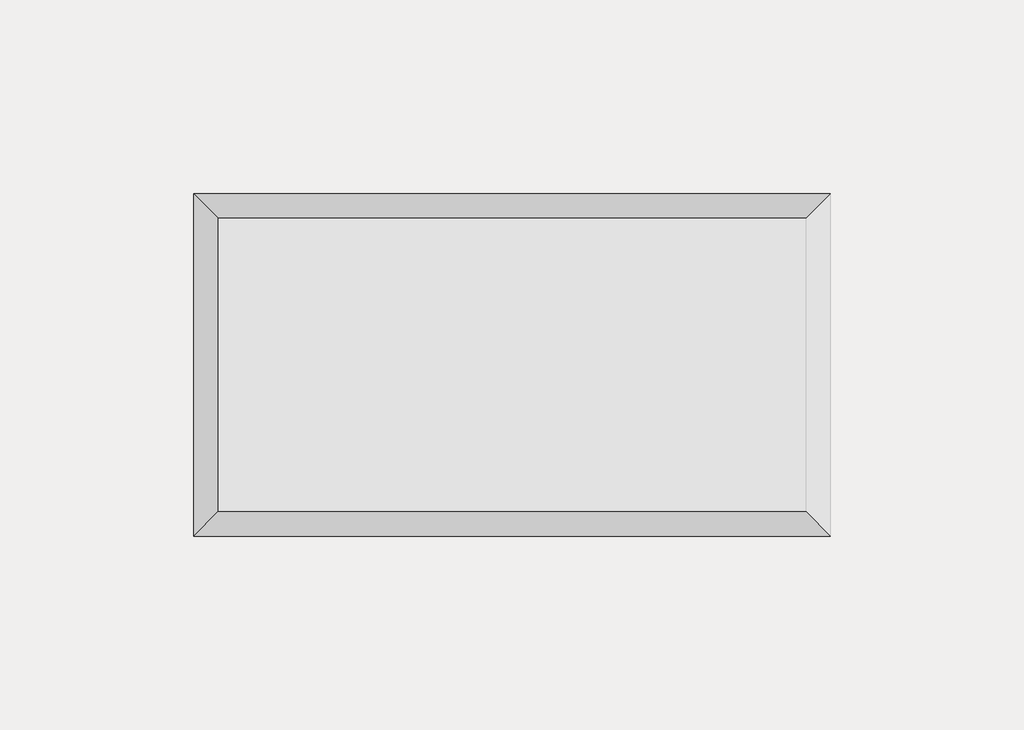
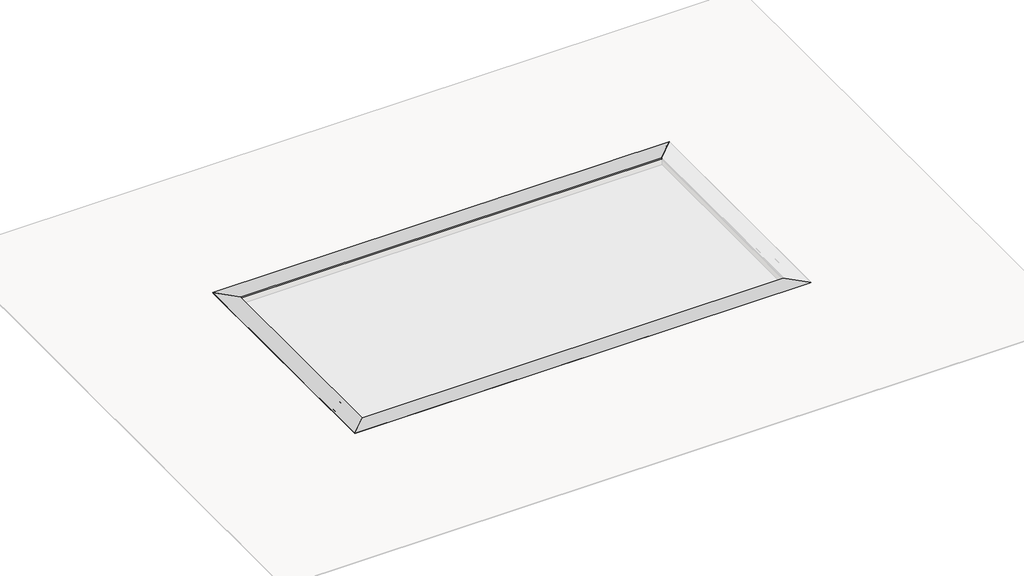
# One storey, part 2 of 5: 5 proxies.
"""IFC4 building model written with IfcOpenShell, lengths in millimetres."""

from ifc_helpers import new_model, si_unit, origin, place, context, project, spatial, faceted_brep, element, save

model = new_model("IFC4")

# Units and contexts
model_context = context("Model", 3, world=origin())
ifc_project = project(units=[si_unit("LENGTHUNIT", "METRE", prefix="MILLI")], contexts=[model_context])

# Site, building, storey
site = spatial("IfcSite", under=ifc_project)
building = spatial("IfcBuilding", under=site)
storey = spatial("IfcBuildingStorey", under=building, Name="EXAGRES_MILAN Series_Pool_Examples", Elevation=0.0)

# Proxies
placement = place(None, origin())
element("IfcBuildingElementProxy", 1, Name="Wall Sweeps", at=placement, inside=storey, context=model_context, shape_type="Brep", body=[
    faceted_brep([(-13483.3292468, -9626.7035945, 0.0), (-13470.3292468, -9639.7035945, 0.0), (-13470.3292468, -9639.7035945, 33.0), (-13800.3292468, -9309.7035945, 33.0), (-13800.3292468, -9309.7035945, 21.0), (-13794.3292468, -9315.7035945, 21.0), (-13794.3292468, -9315.7035945, 22.0), (-13790.3292468, -9319.7035945, 22.0), (-13790.3292468, -9319.7035945, 21.0), (-13784.3292468, -9325.7035945, 21.0), (-13784.3292468, -9325.7035945, 22.0), (-13780.3292468, -9329.7035945, 22.0), (-13780.3292468, -9329.7035945, 21.0), (-13774.3292468, -9335.7035945, 21.0), (-13774.3292468, -9335.7035945, 22.0), (-13770.3292468, -9339.7035945, 22.0), (-13770.3292468, -9339.7035945, 21.0), (-13764.3292468, -9345.7035945, 21.0), (-13764.3292468, -9345.7035945, 22.0), (-13760.3292468, -9349.7035945, 22.0), (-13760.3292468, -9349.7035945, 21.0), (-13754.3292468, -9355.7035945, 21.0), (-13754.3292468, -9355.7035945, 22.0), (-13750.3292468, -9359.7035945, 22.0), (-13750.3292468, -9359.7035945, 21.0), (-13744.3292468, -9365.7035945, 21.0), (-13744.3292468, -9365.7035945, 22.0), (-13740.3292468, -9369.7035945, 22.0), (-13740.3292468, -9369.7035945, 21.0), (-13734.3292468, -9375.7035945, 21.0), (-13734.3292468, -9375.7035945, 22.0), (-13730.3292468, -9379.7035945, 22.0), (-13730.3292468, -9379.7035945, 21.0), (-13724.3292468, -9385.7035945, 21.0), (-13724.3292468, -9385.7035945, 22.0), (-13720.3292468, -9389.7035945, 22.0), (-13720.3292468, -9389.7035945, 21.0), (-13714.3292468, -9395.7035945, 21.0), (-13714.3292468, -9395.7035945, 22.0), (-13710.3292468, -9399.7035945, 22.0), (-13710.3292468, -9399.7035945, 21.0), (-13704.3292468, -9405.7035945, 21.0), (-13704.3292468, -9405.7035945, 22.0), (-13700.3292468, -9409.7035945, 22.0), (-13700.3292468, -9409.7035945, 21.0), (-13694.3292468, -9415.7035945, 21.0), (-13694.3292468, -9415.7035945, 22.0), (-13690.3292468, -9419.7035945, 22.0), (-13690.3292468, -9419.7035945, 21.0), (-13684.3292468, -9425.7035945, 21.0), (-13684.3292468, -9425.7035945, 22.0), (-13680.3292468, -9429.7035945, 22.0), (-13680.3292468, -9429.7035945, 21.0), (-13674.3292468, -9435.7035945, 21.0), (-13674.3292468, -9435.7035945, 22.0), (-13670.3292468, -9439.7035945, 22.0), (-13670.3292468, -9439.7035945, 21.0), (-13664.3292468, -9445.7035945, 21.0), (-13664.3292468, -9445.7035945, 22.0), (-13660.3292468, -9449.7035945, 22.0), (-13660.3292468, -9449.7035945, 21.0), (-13654.3292468, -9455.7035945, 21.0), (-13654.3292468, -9455.7035945, 22.0), (-13650.3292468, -9459.7035945, 22.0), (-13650.3292468, -9459.7035945, 21.0), (-13644.3292468, -9465.7035945, 21.0), (-13644.3292468, -9465.7035945, 22.0), (-13640.3292468, -9469.7035945, 22.0), (-13640.3292468, -9469.7035945, 21.0), (-13634.3292468, -9475.7035945, 21.0), (-13634.3292468, -9475.7035945, 22.0), (-13630.3292468, -9479.7035945, 22.0), (-13630.3292468, -9479.7035945, 21.0), (-13624.3292468, -9485.7035945, 21.0), (-13624.3292468, -9485.7035945, 22.0), (-13620.3292468, -9489.7035945, 22.0), (-13620.3292468, -9489.7035945, 21.0), (-13614.3292468, -9495.7035945, 21.0), (-13614.3292468, -9495.7035945, 22.0), (-13610.3292468, -9499.7035945, 22.0), (-13610.3292468, -9499.7035945, 21.0), (-13604.3292468, -9505.7035945, 21.0), (-13604.3292468, -9505.7035945, 22.0), (-13600.3292468, -9509.7035945, 22.0), (-13600.3292468, -9509.7035945, 21.0), (-13594.3292468, -9515.7035945, 21.0), (-13594.3292468, -9515.7035945, 22.0), (-13590.3292468, -9519.7035945, 22.0), (-13590.3292468, -9519.7035945, 21.0), (-13584.3292468, -9525.7035945, 21.0), (-13584.3292468, -9525.7035945, 22.0), (-13580.3292468, -9529.7035945, 22.0), (-13580.3292468, -9529.7035945, 21.0), (-13574.3292468, -9535.7035945, 21.0), (-13574.3292468, -9535.7035945, 22.0), (-13570.3292468, -9539.7035945, 22.0), (-13570.3292468, -9539.7035945, 21.0), (-13564.3292468, -9545.7035945, 21.0), (-13564.3292468, -9545.7035945, 22.0), (-13560.3292468, -9549.7035945, 22.0), (-13560.3292468, -9549.7035945, 21.0), (-13554.3292468, -9555.7035945, 21.0), (-13554.3292468, -9555.7035945, 22.0), (-13550.3292468, -9559.7035945, 22.0), (-13550.3292468, -9559.7035945, 21.0), (-13544.3292468, -9565.7035945, 21.0), (-13544.3292468, -9565.7035945, 22.0), (-13540.3292468, -9569.7035945, 22.0), (-13540.3292468, -9569.7035945, 21.0), (-13534.3292468, -9575.7035945, 21.0), (-13534.3292468, -9575.7035945, 22.0), (-13530.3292468, -9579.7035945, 22.0), (-13530.3292468, -9579.7035945, 21.0), (-13524.3292468, -9585.7035945, 21.0), (-13524.3292468, -9585.7035945, 22.0), (-13520.3292468, -9589.7035945, 22.0), (-13520.3292468, -9589.7035945, 21.0), (-13514.3292468, -9595.7035945, 21.0), (-13514.3292468, -9595.7035945, 22.0), (-13510.3292468, -9599.7035945, 22.0), (-13510.3292468, -9599.7035945, 21.0), (-13504.3292468, -9605.7035945, 21.0), (-13504.3292468, -9605.7035945, 22.0), (-13500.3292468, -9609.7035945, 22.0), (-13500.3292468, -9609.7035945, 21.0), (-13494.3292468, -9615.7035945, 21.0), (-13494.3292468, -9615.7035945, 22.0), (-13490.3292468, -9619.7035945, 22.0), (-13490.3292468, -9619.7035945, 21.0), (-13483.3292468, -9626.7035945, 21.0), (-13483.3292468, -9626.7035945, 14.0), (-13482.3292468, -9627.7035945, 14.0), (-13482.3292468, -9627.7035945, 8.0), (-13483.3292468, -9626.7035945, 8.0), (-5457.3292468, -9626.7035945, 0.0), (-5457.3292468, -9626.7035945, 8.0), (-5458.3292468, -9627.7035945, 8.0), (-5458.3292468, -9627.7035945, 14.0), (-5457.3292468, -9626.7035945, 14.0), (-5457.3292468, -9626.7035945, 21.0), (-5450.3292468, -9619.7035945, 21.0), (-5450.3292468, -9619.7035945, 22.0), (-5446.3292468, -9615.7035945, 22.0), (-5446.3292468, -9615.7035945, 21.0), (-5440.3292468, -9609.7035945, 21.0), (-5440.3292468, -9609.7035945, 22.0), (-5436.3292468, -9605.7035945, 22.0), (-5436.3292468, -9605.7035945, 21.0), (-5430.3292468, -9599.7035945, 21.0), (-5430.3292468, -9599.7035945, 22.0), (-5426.3292468, -9595.7035945, 22.0), (-5426.3292468, -9595.7035945, 21.0), (-5420.3292468, -9589.7035945, 21.0), (-5420.3292468, -9589.7035945, 22.0), (-5416.3292468, -9585.7035945, 22.0), (-5416.3292468, -9585.7035945, 21.0), (-5410.3292468, -9579.7035945, 21.0), (-5410.3292468, -9579.7035945, 22.0), (-5406.3292468, -9575.7035945, 22.0), (-5406.3292468, -9575.7035945, 21.0), (-5400.3292468, -9569.7035945, 21.0), (-5400.3292468, -9569.7035945, 22.0), (-5396.3292468, -9565.7035945, 22.0), (-5396.3292468, -9565.7035945, 21.0), (-5390.3292468, -9559.7035945, 21.0), (-5390.3292468, -9559.7035945, 22.0), (-5386.3292468, -9555.7035945, 22.0), (-5386.3292468, -9555.7035945, 21.0), (-5380.3292468, -9549.7035945, 21.0), (-5380.3292468, -9549.7035945, 22.0), (-5376.3292468, -9545.7035945, 22.0), (-5376.3292468, -9545.7035945, 21.0), (-5370.3292468, -9539.7035945, 21.0), (-5370.3292468, -9539.7035945, 22.0), (-5366.3292468, -9535.7035945, 22.0), (-5366.3292468, -9535.7035945, 21.0), (-5360.3292468, -9529.7035945, 21.0), (-5360.3292468, -9529.7035945, 22.0), (-5356.3292468, -9525.7035945, 22.0), (-5356.3292468, -9525.7035945, 21.0), (-5350.3292468, -9519.7035945, 21.0), (-5350.3292468, -9519.7035945, 22.0), (-5346.3292468, -9515.7035945, 22.0), (-5346.3292468, -9515.7035945, 21.0), (-5340.3292468, -9509.7035945, 21.0), (-5340.3292468, -9509.7035945, 22.0), (-5336.3292468, -9505.7035945, 22.0), (-5336.3292468, -9505.7035945, 21.0), (-5330.3292468, -9499.7035945, 21.0), (-5330.3292468, -9499.7035945, 22.0), (-5326.3292468, -9495.7035945, 22.0), (-5326.3292468, -9495.7035945, 21.0), (-5320.3292468, -9489.7035945, 21.0), (-5320.3292468, -9489.7035945, 22.0), (-5316.3292468, -9485.7035945, 22.0), (-5316.3292468, -9485.7035945, 21.0), (-5310.3292468, -9479.7035945, 21.0), (-5310.3292468, -9479.7035945, 22.0), (-5306.3292468, -9475.7035945, 22.0), (-5306.3292468, -9475.7035945, 21.0), (-5300.3292468, -9469.7035945, 21.0), (-5300.3292468, -9469.7035945, 22.0), (-5296.3292468, -9465.7035945, 22.0), (-5296.3292468, -9465.7035945, 21.0), (-5290.3292468, -9459.7035945, 21.0), (-5290.3292468, -9459.7035945, 22.0), (-5286.3292468, -9455.7035945, 22.0), (-5286.3292468, -9455.7035945, 21.0), (-5280.3292468, -9449.7035945, 21.0), (-5280.3292468, -9449.7035945, 22.0), (-5276.3292468, -9445.7035945, 22.0), (-5276.3292468, -9445.7035945, 21.0), (-5270.3292468, -9439.7035945, 21.0), (-5270.3292468, -9439.7035945, 22.0), (-5266.3292468, -9435.7035945, 22.0), (-5266.3292468, -9435.7035945, 21.0), (-5260.3292468, -9429.7035945, 21.0), (-5260.3292468, -9429.7035945, 22.0), (-5256.3292468, -9425.7035945, 22.0), (-5256.3292468, -9425.7035945, 21.0), (-5250.3292468, -9419.7035945, 21.0), (-5250.3292468, -9419.7035945, 22.0), (-5246.3292468, -9415.7035945, 22.0), (-5246.3292468, -9415.7035945, 21.0), (-5240.3292468, -9409.7035945, 21.0), (-5240.3292468, -9409.7035945, 22.0), (-5236.3292468, -9405.7035945, 22.0), (-5236.3292468, -9405.7035945, 21.0), (-5230.3292468, -9399.7035945, 21.0), (-5230.3292468, -9399.7035945, 22.0), (-5226.3292468, -9395.7035945, 22.0), (-5226.3292468, -9395.7035945, 21.0), (-5220.3292468, -9389.7035945, 21.0), (-5220.3292468, -9389.7035945, 22.0), (-5216.3292468, -9385.7035945, 22.0), (-5216.3292468, -9385.7035945, 21.0), (-5210.3292468, -9379.7035945, 21.0), (-5210.3292468, -9379.7035945, 22.0), (-5206.3292468, -9375.7035945, 22.0), (-5206.3292468, -9375.7035945, 21.0), (-5200.3292468, -9369.7035945, 21.0), (-5200.3292468, -9369.7035945, 22.0), (-5196.3292468, -9365.7035945, 22.0), (-5196.3292468, -9365.7035945, 21.0), (-5190.3292468, -9359.7035945, 21.0), (-5190.3292468, -9359.7035945, 22.0), (-5186.3292468, -9355.7035945, 22.0), (-5186.3292468, -9355.7035945, 21.0), (-5180.3292468, -9349.7035945, 21.0), (-5180.3292468, -9349.7035945, 22.0), (-5176.3292468, -9345.7035945, 22.0), (-5176.3292468, -9345.7035945, 21.0), (-5170.3292468, -9339.7035945, 21.0), (-5170.3292468, -9339.7035945, 22.0), (-5166.3292468, -9335.7035945, 22.0), (-5166.3292468, -9335.7035945, 21.0), (-5160.3292468, -9329.7035945, 21.0), (-5160.3292468, -9329.7035945, 22.0), (-5156.3292468, -9325.7035945, 22.0), (-5156.3292468, -9325.7035945, 21.0), (-5150.3292468, -9319.7035945, 21.0), (-5150.3292468, -9319.7035945, 22.0), (-5146.3292468, -9315.7035945, 22.0), (-5146.3292468, -9315.7035945, 21.0), (-5140.3292468, -9309.7035945, 21.0), (-5140.3292468, -9309.7035945, 33.0), (-5470.3292468, -9639.7035945, 33.0), (-5470.3292468, -9639.7035945, 0.0)], [[[0, 1, 2, 3, 4, 5, 6, 7, 8, 9, 10, 11, 12, 13, 14, 15, 16, 17, 18, 19, 20, 21, 22, 23, 24, 25, 26, 27, 28, 29, 30, 31, 32, 33, 34, 35, 36, 37, 38, 39, 40, 41, 42, 43, 44, 45, 46, 47, 48, 49, 50, 51, 52, 53, 54, 55, 56, 57, 58, 59, 60, 61, 62, 63, 64, 65, 66, 67, 68, 69, 70, 71, 72, 73, 74, 75, 76, 77, 78, 79, 80, 81, 82, 83, 84, 85, 86, 87, 88, 89, 90, 91, 92, 93, 94, 95, 96, 97, 98, 99, 100, 101, 102, 103, 104, 105, 106, 107, 108, 109, 110, 111, 112, 113, 114, 115, 116, 117, 118, 119, 120, 121, 122, 123, 124, 125, 126, 127, 128, 129, 130, 131, 132, 133]], [[134, 135, 136, 137, 138, 139, 140, 141, 142, 143, 144, 145, 146, 147, 148, 149, 150, 151, 152, 153, 154, 155, 156, 157, 158, 159, 160, 161, 162, 163, 164, 165, 166, 167, 168, 169, 170, 171, 172, 173, 174, 175, 176, 177, 178, 179, 180, 181, 182, 183, 184, 185, 186, 187, 188, 189, 190, 191, 192, 193, 194, 195, 196, 197, 198, 199, 200, 201, 202, 203, 204, 205, 206, 207, 208, 209, 210, 211, 212, 213, 214, 215, 216, 217, 218, 219, 220, 221, 222, 223, 224, 225, 226, 227, 228, 229, 230, 231, 232, 233, 234, 235, 236, 237, 238, 239, 240, 241, 242, 243, 244, 245, 246, 247, 248, 249, 250, 251, 252, 253, 254, 255, 256, 257, 258, 259, 260, 261, 262, 263, 264, 265, 266, 267]], [[1, 0, 134, 267]], [[2, 1, 267, 266]], [[3, 2, 266, 265]], [[4, 3, 265, 264]], [[5, 4, 264, 263]], [[6, 5, 263, 262]], [[7, 6, 262, 261]], [[8, 7, 261, 260]], [[9, 8, 260, 259]], [[10, 9, 259, 258]], [[11, 10, 258, 257]], [[12, 11, 257, 256]], [[13, 12, 256, 255]], [[14, 13, 255, 254]], [[15, 14, 254, 253]], [[16, 15, 253, 252]], [[17, 16, 252, 251]], [[18, 17, 251, 250]], [[19, 18, 250, 249]], [[20, 19, 249, 248]], [[21, 20, 248, 247]], [[22, 21, 247, 246]], [[23, 22, 246, 245]], [[24, 23, 245, 244]], [[25, 24, 244, 243]], [[26, 25, 243, 242]], [[27, 26, 242, 241]], [[28, 27, 241, 240]], [[29, 28, 240, 239]], [[30, 29, 239, 238]], [[31, 30, 238, 237]], [[32, 31, 237, 236]], [[33, 32, 236, 235]], [[34, 33, 235, 234]], [[35, 34, 234, 233]], [[36, 35, 233, 232]], [[37, 36, 232, 231]], [[38, 37, 231, 230]], [[39, 38, 230, 229]], [[40, 39, 229, 228]], [[41, 40, 228, 227]], [[42, 41, 227, 226]], [[43, 42, 226, 225]], [[44, 43, 225, 224]], [[45, 44, 224, 223]], [[46, 45, 223, 222]], [[47, 46, 222, 221]], [[48, 47, 221, 220]], [[49, 48, 220, 219]], [[50, 49, 219, 218]], [[51, 50, 218, 217]], [[52, 51, 217, 216]], [[53, 52, 216, 215]], [[54, 53, 215, 214]], [[55, 54, 214, 213]], [[56, 55, 213, 212]], [[57, 56, 212, 211]], [[58, 57, 211, 210]], [[59, 58, 210, 209]], [[60, 59, 209, 208]], [[61, 60, 208, 207]], [[62, 61, 207, 206]], [[63, 62, 206, 205]], [[64, 63, 205, 204]], [[65, 64, 204, 203]], [[66, 65, 203, 202]], [[67, 66, 202, 201]], [[68, 67, 201, 200]], [[69, 68, 200, 199]], [[70, 69, 199, 198]], [[71, 70, 198, 197]], [[72, 71, 197, 196]], [[73, 72, 196, 195]], [[74, 73, 195, 194]], [[75, 74, 194, 193]], [[76, 75, 193, 192]], [[77, 76, 192, 191]], [[78, 77, 191, 190]], [[79, 78, 190, 189]], [[80, 79, 189, 188]], [[81, 80, 188, 187]], [[82, 81, 187, 186]], [[83, 82, 186, 185]], [[84, 83, 185, 184]], [[85, 84, 184, 183]], [[86, 85, 183, 182]], [[87, 86, 182, 181]], [[88, 87, 181, 180]], [[89, 88, 180, 179]], [[90, 89, 179, 178]], [[91, 90, 178, 177]], [[92, 91, 177, 176]], [[93, 92, 176, 175]], [[94, 93, 175, 174]], [[95, 94, 174, 173]], [[96, 95, 173, 172]], [[97, 96, 172, 171]], [[98, 97, 171, 170]], [[99, 98, 170, 169]], [[100, 99, 169, 168]], [[101, 100, 168, 167]], [[102, 101, 167, 166]], [[103, 102, 166, 165]], [[104, 103, 165, 164]], [[105, 104, 164, 163]], [[106, 105, 163, 162]], [[107, 106, 162, 161]], [[108, 107, 161, 160]], [[109, 108, 160, 159]], [[110, 109, 159, 158]], [[111, 110, 158, 157]], [[112, 111, 157, 156]], [[113, 112, 156, 155]], [[114, 113, 155, 154]], [[115, 114, 154, 153]], [[116, 115, 153, 152]], [[117, 116, 152, 151]], [[118, 117, 151, 150]], [[119, 118, 150, 149]], [[120, 119, 149, 148]], [[121, 120, 148, 147]], [[122, 121, 147, 146]], [[123, 122, 146, 145]], [[124, 123, 145, 144]], [[125, 124, 144, 143]], [[126, 125, 143, 142]], [[127, 126, 142, 141]], [[128, 127, 141, 140]], [[129, 128, 140, 139]], [[130, 129, 139, 138]], [[131, 130, 138, 137]], [[132, 131, 137, 136]], [[133, 132, 136, 135]], [[0, 133, 135, 134]]]),
])
element("IfcBuildingElementProxy", 2, Name="Wall Sweeps", at=placement, inside=storey, context=model_context, shape_type="Brep", body=[
    faceted_brep([(-5457.3292468, -13652.7035945, 0.0), (-5470.3292468, -13639.7035945, 0.0), (-5470.3292468, -13639.7035945, 33.0), (-5140.3292468, -13969.7035945, 33.0), (-5140.3292468, -13969.7035945, 21.0), (-5146.3292468, -13963.7035945, 21.0), (-5146.3292468, -13963.7035945, 22.0), (-5150.3292468, -13959.7035945, 22.0), (-5150.3292468, -13959.7035945, 21.0), (-5156.3292468, -13953.7035945, 21.0), (-5156.3292468, -13953.7035945, 22.0), (-5160.3292468, -13949.7035945, 22.0), (-5160.3292468, -13949.7035945, 21.0), (-5166.3292468, -13943.7035945, 21.0), (-5166.3292468, -13943.7035945, 22.0), (-5170.3292468, -13939.7035945, 22.0), (-5170.3292468, -13939.7035945, 21.0), (-5176.3292468, -13933.7035945, 21.0), (-5176.3292468, -13933.7035945, 22.0), (-5180.3292468, -13929.7035945, 22.0), (-5180.3292468, -13929.7035945, 21.0), (-5186.3292468, -13923.7035945, 21.0), (-5186.3292468, -13923.7035945, 22.0), (-5190.3292468, -13919.7035945, 22.0), (-5190.3292468, -13919.7035945, 21.0), (-5196.3292468, -13913.7035945, 21.0), (-5196.3292468, -13913.7035945, 22.0), (-5200.3292468, -13909.7035945, 22.0), (-5200.3292468, -13909.7035945, 21.0), (-5206.3292468, -13903.7035945, 21.0), (-5206.3292468, -13903.7035945, 22.0), (-5210.3292468, -13899.7035945, 22.0), (-5210.3292468, -13899.7035945, 21.0), (-5216.3292468, -13893.7035945, 21.0), (-5216.3292468, -13893.7035945, 22.0), (-5220.3292468, -13889.7035945, 22.0), (-5220.3292468, -13889.7035945, 21.0), (-5226.3292468, -13883.7035945, 21.0), (-5226.3292468, -13883.7035945, 22.0), (-5230.3292468, -13879.7035945, 22.0), (-5230.3292468, -13879.7035945, 21.0), (-5236.3292468, -13873.7035945, 21.0), (-5236.3292468, -13873.7035945, 22.0), (-5240.3292468, -13869.7035945, 22.0), (-5240.3292468, -13869.7035945, 21.0), (-5246.3292468, -13863.7035945, 21.0), (-5246.3292468, -13863.7035945, 22.0), (-5250.3292468, -13859.7035945, 22.0), (-5250.3292468, -13859.7035945, 21.0), (-5256.3292468, -13853.7035945, 21.0), (-5256.3292468, -13853.7035945, 22.0), (-5260.3292468, -13849.7035945, 22.0), (-5260.3292468, -13849.7035945, 21.0), (-5266.3292468, -13843.7035945, 21.0), (-5266.3292468, -13843.7035945, 22.0), (-5270.3292468, -13839.7035945, 22.0), (-5270.3292468, -13839.7035945, 21.0), (-5276.3292468, -13833.7035945, 21.0), (-5276.3292468, -13833.7035945, 22.0), (-5280.3292468, -13829.7035945, 22.0), (-5280.3292468, -13829.7035945, 21.0), (-5286.3292468, -13823.7035945, 21.0), (-5286.3292468, -13823.7035945, 22.0), (-5290.3292468, -13819.7035945, 22.0), (-5290.3292468, -13819.7035945, 21.0), (-5296.3292468, -13813.7035945, 21.0), (-5296.3292468, -13813.7035945, 22.0), (-5300.3292468, -13809.7035945, 22.0), (-5300.3292468, -13809.7035945, 21.0), (-5306.3292468, -13803.7035945, 21.0), (-5306.3292468, -13803.7035945, 22.0), (-5310.3292468, -13799.7035945, 22.0), (-5310.3292468, -13799.7035945, 21.0), (-5316.3292468, -13793.7035945, 21.0), (-5316.3292468, -13793.7035945, 22.0), (-5320.3292468, -13789.7035945, 22.0), (-5320.3292468, -13789.7035945, 21.0), (-5326.3292468, -13783.7035945, 21.0), (-5326.3292468, -13783.7035945, 22.0), (-5330.3292468, -13779.7035945, 22.0), (-5330.3292468, -13779.7035945, 21.0), (-5336.3292468, -13773.7035945, 21.0), (-5336.3292468, -13773.7035945, 22.0), (-5340.3292468, -13769.7035945, 22.0), (-5340.3292468, -13769.7035945, 21.0), (-5346.3292468, -13763.7035945, 21.0), (-5346.3292468, -13763.7035945, 22.0), (-5350.3292468, -13759.7035945, 22.0), (-5350.3292468, -13759.7035945, 21.0), (-5356.3292468, -13753.7035945, 21.0), (-5356.3292468, -13753.7035945, 22.0), (-5360.3292468, -13749.7035945, 22.0), (-5360.3292468, -13749.7035945, 21.0), (-5366.3292468, -13743.7035945, 21.0), (-5366.3292468, -13743.7035945, 22.0), (-5370.3292468, -13739.7035945, 22.0), (-5370.3292468, -13739.7035945, 21.0), (-5376.3292468, -13733.7035945, 21.0), (-5376.3292468, -13733.7035945, 22.0), (-5380.3292468, -13729.7035945, 22.0), (-5380.3292468, -13729.7035945, 21.0), (-5386.3292468, -13723.7035945, 21.0), (-5386.3292468, -13723.7035945, 22.0), (-5390.3292468, -13719.7035945, 22.0), (-5390.3292468, -13719.7035945, 21.0), (-5396.3292468, -13713.7035945, 21.0), (-5396.3292468, -13713.7035945, 22.0), (-5400.3292468, -13709.7035945, 22.0), (-5400.3292468, -13709.7035945, 21.0), (-5406.3292468, -13703.7035945, 21.0), (-5406.3292468, -13703.7035945, 22.0), (-5410.3292468, -13699.7035945, 22.0), (-5410.3292468, -13699.7035945, 21.0), (-5416.3292468, -13693.7035945, 21.0), (-5416.3292468, -13693.7035945, 22.0), (-5420.3292468, -13689.7035945, 22.0), (-5420.3292468, -13689.7035945, 21.0), (-5426.3292468, -13683.7035945, 21.0), (-5426.3292468, -13683.7035945, 22.0), (-5430.3292468, -13679.7035945, 22.0), (-5430.3292468, -13679.7035945, 21.0), (-5436.3292468, -13673.7035945, 21.0), (-5436.3292468, -13673.7035945, 22.0), (-5440.3292468, -13669.7035945, 22.0), (-5440.3292468, -13669.7035945, 21.0), (-5446.3292468, -13663.7035945, 21.0), (-5446.3292468, -13663.7035945, 22.0), (-5450.3292468, -13659.7035945, 22.0), (-5450.3292468, -13659.7035945, 21.0), (-5457.3292468, -13652.7035945, 21.0), (-5457.3292468, -13652.7035945, 14.0), (-5458.3292468, -13651.7035945, 14.0), (-5458.3292468, -13651.7035945, 8.0), (-5457.3292468, -13652.7035945, 8.0), (-13483.3292468, -13652.7035945, 0.0), (-13483.3292468, -13652.7035945, 8.0), (-13482.3292468, -13651.7035945, 8.0), (-13482.3292468, -13651.7035945, 14.0), (-13483.3292468, -13652.7035945, 14.0), (-13483.3292468, -13652.7035945, 21.0), (-13490.3292468, -13659.7035945, 21.0), (-13490.3292468, -13659.7035945, 22.0), (-13494.3292468, -13663.7035945, 22.0), (-13494.3292468, -13663.7035945, 21.0), (-13500.3292468, -13669.7035945, 21.0), (-13500.3292468, -13669.7035945, 22.0), (-13504.3292468, -13673.7035945, 22.0), (-13504.3292468, -13673.7035945, 21.0), (-13510.3292468, -13679.7035945, 21.0), (-13510.3292468, -13679.7035945, 22.0), (-13514.3292468, -13683.7035945, 22.0), (-13514.3292468, -13683.7035945, 21.0), (-13520.3292468, -13689.7035945, 21.0), (-13520.3292468, -13689.7035945, 22.0), (-13524.3292468, -13693.7035945, 22.0), (-13524.3292468, -13693.7035945, 21.0), (-13530.3292468, -13699.7035945, 21.0), (-13530.3292468, -13699.7035945, 22.0), (-13534.3292468, -13703.7035945, 22.0), (-13534.3292468, -13703.7035945, 21.0), (-13540.3292468, -13709.7035945, 21.0), (-13540.3292468, -13709.7035945, 22.0), (-13544.3292468, -13713.7035945, 22.0), (-13544.3292468, -13713.7035945, 21.0), (-13550.3292468, -13719.7035945, 21.0), (-13550.3292468, -13719.7035945, 22.0), (-13554.3292468, -13723.7035945, 22.0), (-13554.3292468, -13723.7035945, 21.0), (-13560.3292468, -13729.7035945, 21.0), (-13560.3292468, -13729.7035945, 22.0), (-13564.3292468, -13733.7035945, 22.0), (-13564.3292468, -13733.7035945, 21.0), (-13570.3292468, -13739.7035945, 21.0), (-13570.3292468, -13739.7035945, 22.0), (-13574.3292468, -13743.7035945, 22.0), (-13574.3292468, -13743.7035945, 21.0), (-13580.3292468, -13749.7035945, 21.0), (-13580.3292468, -13749.7035945, 22.0), (-13584.3292468, -13753.7035945, 22.0), (-13584.3292468, -13753.7035945, 21.0), (-13590.3292468, -13759.7035945, 21.0), (-13590.3292468, -13759.7035945, 22.0), (-13594.3292468, -13763.7035945, 22.0), (-13594.3292468, -13763.7035945, 21.0), (-13600.3292468, -13769.7035945, 21.0), (-13600.3292468, -13769.7035945, 22.0), (-13604.3292468, -13773.7035945, 22.0), (-13604.3292468, -13773.7035945, 21.0), (-13610.3292468, -13779.7035945, 21.0), (-13610.3292468, -13779.7035945, 22.0), (-13614.3292468, -13783.7035945, 22.0), (-13614.3292468, -13783.7035945, 21.0), (-13620.3292468, -13789.7035945, 21.0), (-13620.3292468, -13789.7035945, 22.0), (-13624.3292468, -13793.7035945, 22.0), (-13624.3292468, -13793.7035945, 21.0), (-13630.3292468, -13799.7035945, 21.0), (-13630.3292468, -13799.7035945, 22.0), (-13634.3292468, -13803.7035945, 22.0), (-13634.3292468, -13803.7035945, 21.0), (-13640.3292468, -13809.7035945, 21.0), (-13640.3292468, -13809.7035945, 22.0), (-13644.3292468, -13813.7035945, 22.0), (-13644.3292468, -13813.7035945, 21.0), (-13650.3292468, -13819.7035945, 21.0), (-13650.3292468, -13819.7035945, 22.0), (-13654.3292468, -13823.7035945, 22.0), (-13654.3292468, -13823.7035945, 21.0), (-13660.3292468, -13829.7035945, 21.0), (-13660.3292468, -13829.7035945, 22.0), (-13664.3292468, -13833.7035945, 22.0), (-13664.3292468, -13833.7035945, 21.0), (-13670.3292468, -13839.7035945, 21.0), (-13670.3292468, -13839.7035945, 22.0), (-13674.3292468, -13843.7035945, 22.0), (-13674.3292468, -13843.7035945, 21.0), (-13680.3292468, -13849.7035945, 21.0), (-13680.3292468, -13849.7035945, 22.0), (-13684.3292468, -13853.7035945, 22.0), (-13684.3292468, -13853.7035945, 21.0), (-13690.3292468, -13859.7035945, 21.0), (-13690.3292468, -13859.7035945, 22.0), (-13694.3292468, -13863.7035945, 22.0), (-13694.3292468, -13863.7035945, 21.0), (-13700.3292468, -13869.7035945, 21.0), (-13700.3292468, -13869.7035945, 22.0), (-13704.3292468, -13873.7035945, 22.0), (-13704.3292468, -13873.7035945, 21.0), (-13710.3292468, -13879.7035945, 21.0), (-13710.3292468, -13879.7035945, 22.0), (-13714.3292468, -13883.7035945, 22.0), (-13714.3292468, -13883.7035945, 21.0), (-13720.3292468, -13889.7035945, 21.0), (-13720.3292468, -13889.7035945, 22.0), (-13724.3292468, -13893.7035945, 22.0), (-13724.3292468, -13893.7035945, 21.0), (-13730.3292468, -13899.7035945, 21.0), (-13730.3292468, -13899.7035945, 22.0), (-13734.3292468, -13903.7035945, 22.0), (-13734.3292468, -13903.7035945, 21.0), (-13740.3292468, -13909.7035945, 21.0), (-13740.3292468, -13909.7035945, 22.0), (-13744.3292468, -13913.7035945, 22.0), (-13744.3292468, -13913.7035945, 21.0), (-13750.3292468, -13919.7035945, 21.0), (-13750.3292468, -13919.7035945, 22.0), (-13754.3292468, -13923.7035945, 22.0), (-13754.3292468, -13923.7035945, 21.0), (-13760.3292468, -13929.7035945, 21.0), (-13760.3292468, -13929.7035945, 22.0), (-13764.3292468, -13933.7035945, 22.0), (-13764.3292468, -13933.7035945, 21.0), (-13770.3292468, -13939.7035945, 21.0), (-13770.3292468, -13939.7035945, 22.0), (-13774.3292468, -13943.7035945, 22.0), (-13774.3292468, -13943.7035945, 21.0), (-13780.3292468, -13949.7035945, 21.0), (-13780.3292468, -13949.7035945, 22.0), (-13784.3292468, -13953.7035945, 22.0), (-13784.3292468, -13953.7035945, 21.0), (-13790.3292468, -13959.7035945, 21.0), (-13790.3292468, -13959.7035945, 22.0), (-13794.3292468, -13963.7035945, 22.0), (-13794.3292468, -13963.7035945, 21.0), (-13800.3292468, -13969.7035945, 21.0), (-13800.3292468, -13969.7035945, 33.0), (-13470.3292468, -13639.7035945, 33.0), (-13470.3292468, -13639.7035945, 0.0)], [[[0, 1, 2, 3, 4, 5, 6, 7, 8, 9, 10, 11, 12, 13, 14, 15, 16, 17, 18, 19, 20, 21, 22, 23, 24, 25, 26, 27, 28, 29, 30, 31, 32, 33, 34, 35, 36, 37, 38, 39, 40, 41, 42, 43, 44, 45, 46, 47, 48, 49, 50, 51, 52, 53, 54, 55, 56, 57, 58, 59, 60, 61, 62, 63, 64, 65, 66, 67, 68, 69, 70, 71, 72, 73, 74, 75, 76, 77, 78, 79, 80, 81, 82, 83, 84, 85, 86, 87, 88, 89, 90, 91, 92, 93, 94, 95, 96, 97, 98, 99, 100, 101, 102, 103, 104, 105, 106, 107, 108, 109, 110, 111, 112, 113, 114, 115, 116, 117, 118, 119, 120, 121, 122, 123, 124, 125, 126, 127, 128, 129, 130, 131, 132, 133]], [[134, 135, 136, 137, 138, 139, 140, 141, 142, 143, 144, 145, 146, 147, 148, 149, 150, 151, 152, 153, 154, 155, 156, 157, 158, 159, 160, 161, 162, 163, 164, 165, 166, 167, 168, 169, 170, 171, 172, 173, 174, 175, 176, 177, 178, 179, 180, 181, 182, 183, 184, 185, 186, 187, 188, 189, 190, 191, 192, 193, 194, 195, 196, 197, 198, 199, 200, 201, 202, 203, 204, 205, 206, 207, 208, 209, 210, 211, 212, 213, 214, 215, 216, 217, 218, 219, 220, 221, 222, 223, 224, 225, 226, 227, 228, 229, 230, 231, 232, 233, 234, 235, 236, 237, 238, 239, 240, 241, 242, 243, 244, 245, 246, 247, 248, 249, 250, 251, 252, 253, 254, 255, 256, 257, 258, 259, 260, 261, 262, 263, 264, 265, 266, 267]], [[1, 0, 134, 267]], [[2, 1, 267, 266]], [[3, 2, 266, 265]], [[4, 3, 265, 264]], [[5, 4, 264, 263]], [[6, 5, 263, 262]], [[7, 6, 262, 261]], [[8, 7, 261, 260]], [[9, 8, 260, 259]], [[10, 9, 259, 258]], [[11, 10, 258, 257]], [[12, 11, 257, 256]], [[13, 12, 256, 255]], [[14, 13, 255, 254]], [[15, 14, 254, 253]], [[16, 15, 253, 252]], [[17, 16, 252, 251]], [[18, 17, 251, 250]], [[19, 18, 250, 249]], [[20, 19, 249, 248]], [[21, 20, 248, 247]], [[22, 21, 247, 246]], [[23, 22, 246, 245]], [[24, 23, 245, 244]], [[25, 24, 244, 243]], [[26, 25, 243, 242]], [[27, 26, 242, 241]], [[28, 27, 241, 240]], [[29, 28, 240, 239]], [[30, 29, 239, 238]], [[31, 30, 238, 237]], [[32, 31, 237, 236]], [[33, 32, 236, 235]], [[34, 33, 235, 234]], [[35, 34, 234, 233]], [[36, 35, 233, 232]], [[37, 36, 232, 231]], [[38, 37, 231, 230]], [[39, 38, 230, 229]], [[40, 39, 229, 228]], [[41, 40, 228, 227]], [[42, 41, 227, 226]], [[43, 42, 226, 225]], [[44, 43, 225, 224]], [[45, 44, 224, 223]], [[46, 45, 223, 222]], [[47, 46, 222, 221]], [[48, 47, 221, 220]], [[49, 48, 220, 219]], [[50, 49, 219, 218]], [[51, 50, 218, 217]], [[52, 51, 217, 216]], [[53, 52, 216, 215]], [[54, 53, 215, 214]], [[55, 54, 214, 213]], [[56, 55, 213, 212]], [[57, 56, 212, 211]], [[58, 57, 211, 210]], [[59, 58, 210, 209]], [[60, 59, 209, 208]], [[61, 60, 208, 207]], [[62, 61, 207, 206]], [[63, 62, 206, 205]], [[64, 63, 205, 204]], [[65, 64, 204, 203]], [[66, 65, 203, 202]], [[67, 66, 202, 201]], [[68, 67, 201, 200]], [[69, 68, 200, 199]], [[70, 69, 199, 198]], [[71, 70, 198, 197]], [[72, 71, 197, 196]], [[73, 72, 196, 195]], [[74, 73, 195, 194]], [[75, 74, 194, 193]], [[76, 75, 193, 192]], [[77, 76, 192, 191]], [[78, 77, 191, 190]], [[79, 78, 190, 189]], [[80, 79, 189, 188]], [[81, 80, 188, 187]], [[82, 81, 187, 186]], [[83, 82, 186, 185]], [[84, 83, 185, 184]], [[85, 84, 184, 183]], [[86, 85, 183, 182]], [[87, 86, 182, 181]], [[88, 87, 181, 180]], [[89, 88, 180, 179]], [[90, 89, 179, 178]], [[91, 90, 178, 177]], [[92, 91, 177, 176]], [[93, 92, 176, 175]], [[94, 93, 175, 174]], [[95, 94, 174, 173]], [[96, 95, 173, 172]], [[97, 96, 172, 171]], [[98, 97, 171, 170]], [[99, 98, 170, 169]], [[100, 99, 169, 168]], [[101, 100, 168, 167]], [[102, 101, 167, 166]], [[103, 102, 166, 165]], [[104, 103, 165, 164]], [[105, 104, 164, 163]], [[106, 105, 163, 162]], [[107, 106, 162, 161]], [[108, 107, 161, 160]], [[109, 108, 160, 159]], [[110, 109, 159, 158]], [[111, 110, 158, 157]], [[112, 111, 157, 156]], [[113, 112, 156, 155]], [[114, 113, 155, 154]], [[115, 114, 154, 153]], [[116, 115, 153, 152]], [[117, 116, 152, 151]], [[118, 117, 151, 150]], [[119, 118, 150, 149]], [[120, 119, 149, 148]], [[121, 120, 148, 147]], [[122, 121, 147, 146]], [[123, 122, 146, 145]], [[124, 123, 145, 144]], [[125, 124, 144, 143]], [[126, 125, 143, 142]], [[127, 126, 142, 141]], [[128, 127, 141, 140]], [[129, 128, 140, 139]], [[130, 129, 139, 138]], [[131, 130, 138, 137]], [[132, 131, 137, 136]], [[133, 132, 136, 135]], [[0, 133, 135, 134]]]),
])
element("IfcBuildingElementProxy", 3, Name="Wall Sweeps", at=placement, inside=storey, context=model_context, shape_type="Brep", body=[
    faceted_brep([(-5150.3292468, -13959.7035945, -181.26), (-5245.3292468, -13864.7035945, -181.26), (-5455.3292468, -13654.7035945, -181.26), (-5455.3292468, -13654.7035945, 0.0), (-5455.3292468, -13654.7035945, 18.74), (-5150.3292468, -13959.7035945, 18.74), (-13790.3292468, -13959.7035945, -181.26), (-13790.3292468, -13959.7035945, 18.74), (-13485.3292468, -13654.7035945, 18.74), (-13485.3292468, -13654.7035945, 0.0), (-13485.3292468, -13654.7035945, -181.26), (-13695.3292468, -13864.7035945, -181.26)], [[[0, 1, 2, 3, 4, 5]], [[6, 7, 8, 9, 10, 11]], [[4, 3, 2, 10, 9, 8]], [[2, 1, 0, 6, 11, 10]], [[5, 4, 8, 7]], [[0, 5, 7, 6]]]),
])
element("IfcBuildingElementProxy", 4, Name="Wall Sweeps", at=placement, inside=storey, context=model_context, shape_type="Brep", body=[
    faceted_brep([(-13483.3292468, -13652.7035945, 0.0), (-13470.3292468, -13639.7035945, 0.0), (-13470.3292468, -13639.7035945, 33.0), (-13800.3292468, -13969.7035945, 33.0), (-13800.3292468, -13969.7035945, 21.0), (-13794.3292468, -13963.7035945, 21.0), (-13794.3292468, -13963.7035945, 22.0), (-13790.3292468, -13959.7035945, 22.0), (-13790.3292468, -13959.7035945, 21.0), (-13784.3292468, -13953.7035945, 21.0), (-13784.3292468, -13953.7035945, 22.0), (-13780.3292468, -13949.7035945, 22.0), (-13780.3292468, -13949.7035945, 21.0), (-13774.3292468, -13943.7035945, 21.0), (-13774.3292468, -13943.7035945, 22.0), (-13770.3292468, -13939.7035945, 22.0), (-13770.3292468, -13939.7035945, 21.0), (-13764.3292468, -13933.7035945, 21.0), (-13764.3292468, -13933.7035945, 22.0), (-13760.3292468, -13929.7035945, 22.0), (-13760.3292468, -13929.7035945, 21.0), (-13754.3292468, -13923.7035945, 21.0), (-13754.3292468, -13923.7035945, 22.0), (-13750.3292468, -13919.7035945, 22.0), (-13750.3292468, -13919.7035945, 21.0), (-13744.3292468, -13913.7035945, 21.0), (-13744.3292468, -13913.7035945, 22.0), (-13740.3292468, -13909.7035945, 22.0), (-13740.3292468, -13909.7035945, 21.0), (-13734.3292468, -13903.7035945, 21.0), (-13734.3292468, -13903.7035945, 22.0), (-13730.3292468, -13899.7035945, 22.0), (-13730.3292468, -13899.7035945, 21.0), (-13724.3292468, -13893.7035945, 21.0), (-13724.3292468, -13893.7035945, 22.0), (-13720.3292468, -13889.7035945, 22.0), (-13720.3292468, -13889.7035945, 21.0), (-13714.3292468, -13883.7035945, 21.0), (-13714.3292468, -13883.7035945, 22.0), (-13710.3292468, -13879.7035945, 22.0), (-13710.3292468, -13879.7035945, 21.0), (-13704.3292468, -13873.7035945, 21.0), (-13704.3292468, -13873.7035945, 22.0), (-13700.3292468, -13869.7035945, 22.0), (-13700.3292468, -13869.7035945, 21.0), (-13694.3292468, -13863.7035945, 21.0), (-13694.3292468, -13863.7035945, 22.0), (-13690.3292468, -13859.7035945, 22.0), (-13690.3292468, -13859.7035945, 21.0), (-13684.3292468, -13853.7035945, 21.0), (-13684.3292468, -13853.7035945, 22.0), (-13680.3292468, -13849.7035945, 22.0), (-13680.3292468, -13849.7035945, 21.0), (-13674.3292468, -13843.7035945, 21.0), (-13674.3292468, -13843.7035945, 22.0), (-13670.3292468, -13839.7035945, 22.0), (-13670.3292468, -13839.7035945, 21.0), (-13664.3292468, -13833.7035945, 21.0), (-13664.3292468, -13833.7035945, 22.0), (-13660.3292468, -13829.7035945, 22.0), (-13660.3292468, -13829.7035945, 21.0), (-13654.3292468, -13823.7035945, 21.0), (-13654.3292468, -13823.7035945, 22.0), (-13650.3292468, -13819.7035945, 22.0), (-13650.3292468, -13819.7035945, 21.0), (-13644.3292468, -13813.7035945, 21.0), (-13644.3292468, -13813.7035945, 22.0), (-13640.3292468, -13809.7035945, 22.0), (-13640.3292468, -13809.7035945, 21.0), (-13634.3292468, -13803.7035945, 21.0), (-13634.3292468, -13803.7035945, 22.0), (-13630.3292468, -13799.7035945, 22.0), (-13630.3292468, -13799.7035945, 21.0), (-13624.3292468, -13793.7035945, 21.0), (-13624.3292468, -13793.7035945, 22.0), (-13620.3292468, -13789.7035945, 22.0), (-13620.3292468, -13789.7035945, 21.0), (-13614.3292468, -13783.7035945, 21.0), (-13614.3292468, -13783.7035945, 22.0), (-13610.3292468, -13779.7035945, 22.0), (-13610.3292468, -13779.7035945, 21.0), (-13604.3292468, -13773.7035945, 21.0), (-13604.3292468, -13773.7035945, 22.0), (-13600.3292468, -13769.7035945, 22.0), (-13600.3292468, -13769.7035945, 21.0), (-13594.3292468, -13763.7035945, 21.0), (-13594.3292468, -13763.7035945, 22.0), (-13590.3292468, -13759.7035945, 22.0), (-13590.3292468, -13759.7035945, 21.0), (-13584.3292468, -13753.7035945, 21.0), (-13584.3292468, -13753.7035945, 22.0), (-13580.3292468, -13749.7035945, 22.0), (-13580.3292468, -13749.7035945, 21.0), (-13574.3292468, -13743.7035945, 21.0), (-13574.3292468, -13743.7035945, 22.0), (-13570.3292468, -13739.7035945, 22.0), (-13570.3292468, -13739.7035945, 21.0), (-13564.3292468, -13733.7035945, 21.0), (-13564.3292468, -13733.7035945, 22.0), (-13560.3292468, -13729.7035945, 22.0), (-13560.3292468, -13729.7035945, 21.0), (-13554.3292468, -13723.7035945, 21.0), (-13554.3292468, -13723.7035945, 22.0), (-13550.3292468, -13719.7035945, 22.0), (-13550.3292468, -13719.7035945, 21.0), (-13544.3292468, -13713.7035945, 21.0), (-13544.3292468, -13713.7035945, 22.0), (-13540.3292468, -13709.7035945, 22.0), (-13540.3292468, -13709.7035945, 21.0), (-13534.3292468, -13703.7035945, 21.0), (-13534.3292468, -13703.7035945, 22.0), (-13530.3292468, -13699.7035945, 22.0), (-13530.3292468, -13699.7035945, 21.0), (-13524.3292468, -13693.7035945, 21.0), (-13524.3292468, -13693.7035945, 22.0), (-13520.3292468, -13689.7035945, 22.0), (-13520.3292468, -13689.7035945, 21.0), (-13514.3292468, -13683.7035945, 21.0), (-13514.3292468, -13683.7035945, 22.0), (-13510.3292468, -13679.7035945, 22.0), (-13510.3292468, -13679.7035945, 21.0), (-13504.3292468, -13673.7035945, 21.0), (-13504.3292468, -13673.7035945, 22.0), (-13500.3292468, -13669.7035945, 22.0), (-13500.3292468, -13669.7035945, 21.0), (-13494.3292468, -13663.7035945, 21.0), (-13494.3292468, -13663.7035945, 22.0), (-13490.3292468, -13659.7035945, 22.0), (-13490.3292468, -13659.7035945, 21.0), (-13483.3292468, -13652.7035945, 21.0), (-13483.3292468, -13652.7035945, 14.0), (-13482.3292468, -13651.7035945, 14.0), (-13482.3292468, -13651.7035945, 8.0), (-13483.3292468, -13652.7035945, 8.0), (-13483.3292468, -9626.7035945, 0.0), (-13483.3292468, -9626.7035945, 8.0), (-13482.3292468, -9627.7035945, 8.0), (-13482.3292468, -9627.7035945, 14.0), (-13483.3292468, -9626.7035945, 14.0), (-13483.3292468, -9626.7035945, 21.0), (-13490.3292468, -9619.7035945, 21.0), (-13490.3292468, -9619.7035945, 22.0), (-13494.3292468, -9615.7035945, 22.0), (-13494.3292468, -9615.7035945, 21.0), (-13500.3292468, -9609.7035945, 21.0), (-13500.3292468, -9609.7035945, 22.0), (-13504.3292468, -9605.7035945, 22.0), (-13504.3292468, -9605.7035945, 21.0), (-13510.3292468, -9599.7035945, 21.0), (-13510.3292468, -9599.7035945, 22.0), (-13514.3292468, -9595.7035945, 22.0), (-13514.3292468, -9595.7035945, 21.0), (-13520.3292468, -9589.7035945, 21.0), (-13520.3292468, -9589.7035945, 22.0), (-13524.3292468, -9585.7035945, 22.0), (-13524.3292468, -9585.7035945, 21.0), (-13530.3292468, -9579.7035945, 21.0), (-13530.3292468, -9579.7035945, 22.0), (-13534.3292468, -9575.7035945, 22.0), (-13534.3292468, -9575.7035945, 21.0), (-13540.3292468, -9569.7035945, 21.0), (-13540.3292468, -9569.7035945, 22.0), (-13544.3292468, -9565.7035945, 22.0), (-13544.3292468, -9565.7035945, 21.0), (-13550.3292468, -9559.7035945, 21.0), (-13550.3292468, -9559.7035945, 22.0), (-13554.3292468, -9555.7035945, 22.0), (-13554.3292468, -9555.7035945, 21.0), (-13560.3292468, -9549.7035945, 21.0), (-13560.3292468, -9549.7035945, 22.0), (-13564.3292468, -9545.7035945, 22.0), (-13564.3292468, -9545.7035945, 21.0), (-13570.3292468, -9539.7035945, 21.0), (-13570.3292468, -9539.7035945, 22.0), (-13574.3292468, -9535.7035945, 22.0), (-13574.3292468, -9535.7035945, 21.0), (-13580.3292468, -9529.7035945, 21.0), (-13580.3292468, -9529.7035945, 22.0), (-13584.3292468, -9525.7035945, 22.0), (-13584.3292468, -9525.7035945, 21.0), (-13590.3292468, -9519.7035945, 21.0), (-13590.3292468, -9519.7035945, 22.0), (-13594.3292468, -9515.7035945, 22.0), (-13594.3292468, -9515.7035945, 21.0), (-13600.3292468, -9509.7035945, 21.0), (-13600.3292468, -9509.7035945, 22.0), (-13604.3292468, -9505.7035945, 22.0), (-13604.3292468, -9505.7035945, 21.0), (-13610.3292468, -9499.7035945, 21.0), (-13610.3292468, -9499.7035945, 22.0), (-13614.3292468, -9495.7035945, 22.0), (-13614.3292468, -9495.7035945, 21.0), (-13620.3292468, -9489.7035945, 21.0), (-13620.3292468, -9489.7035945, 22.0), (-13624.3292468, -9485.7035945, 22.0), (-13624.3292468, -9485.7035945, 21.0), (-13630.3292468, -9479.7035945, 21.0), (-13630.3292468, -9479.7035945, 22.0), (-13634.3292468, -9475.7035945, 22.0), (-13634.3292468, -9475.7035945, 21.0), (-13640.3292468, -9469.7035945, 21.0), (-13640.3292468, -9469.7035945, 22.0), (-13644.3292468, -9465.7035945, 22.0), (-13644.3292468, -9465.7035945, 21.0), (-13650.3292468, -9459.7035945, 21.0), (-13650.3292468, -9459.7035945, 22.0), (-13654.3292468, -9455.7035945, 22.0), (-13654.3292468, -9455.7035945, 21.0), (-13660.3292468, -9449.7035945, 21.0), (-13660.3292468, -9449.7035945, 22.0), (-13664.3292468, -9445.7035945, 22.0), (-13664.3292468, -9445.7035945, 21.0), (-13670.3292468, -9439.7035945, 21.0), (-13670.3292468, -9439.7035945, 22.0), (-13674.3292468, -9435.7035945, 22.0), (-13674.3292468, -9435.7035945, 21.0), (-13680.3292468, -9429.7035945, 21.0), (-13680.3292468, -9429.7035945, 22.0), (-13684.3292468, -9425.7035945, 22.0), (-13684.3292468, -9425.7035945, 21.0), (-13690.3292468, -9419.7035945, 21.0), (-13690.3292468, -9419.7035945, 22.0), (-13694.3292468, -9415.7035945, 22.0), (-13694.3292468, -9415.7035945, 21.0), (-13700.3292468, -9409.7035945, 21.0), (-13700.3292468, -9409.7035945, 22.0), (-13704.3292468, -9405.7035945, 22.0), (-13704.3292468, -9405.7035945, 21.0), (-13710.3292468, -9399.7035945, 21.0), (-13710.3292468, -9399.7035945, 22.0), (-13714.3292468, -9395.7035945, 22.0), (-13714.3292468, -9395.7035945, 21.0), (-13720.3292468, -9389.7035945, 21.0), (-13720.3292468, -9389.7035945, 22.0), (-13724.3292468, -9385.7035945, 22.0), (-13724.3292468, -9385.7035945, 21.0), (-13730.3292468, -9379.7035945, 21.0), (-13730.3292468, -9379.7035945, 22.0), (-13734.3292468, -9375.7035945, 22.0), (-13734.3292468, -9375.7035945, 21.0), (-13740.3292468, -9369.7035945, 21.0), (-13740.3292468, -9369.7035945, 22.0), (-13744.3292468, -9365.7035945, 22.0), (-13744.3292468, -9365.7035945, 21.0), (-13750.3292468, -9359.7035945, 21.0), (-13750.3292468, -9359.7035945, 22.0), (-13754.3292468, -9355.7035945, 22.0), (-13754.3292468, -9355.7035945, 21.0), (-13760.3292468, -9349.7035945, 21.0), (-13760.3292468, -9349.7035945, 22.0), (-13764.3292468, -9345.7035945, 22.0), (-13764.3292468, -9345.7035945, 21.0), (-13770.3292468, -9339.7035945, 21.0), (-13770.3292468, -9339.7035945, 22.0), (-13774.3292468, -9335.7035945, 22.0), (-13774.3292468, -9335.7035945, 21.0), (-13780.3292468, -9329.7035945, 21.0), (-13780.3292468, -9329.7035945, 22.0), (-13784.3292468, -9325.7035945, 22.0), (-13784.3292468, -9325.7035945, 21.0), (-13790.3292468, -9319.7035945, 21.0), (-13790.3292468, -9319.7035945, 22.0), (-13794.3292468, -9315.7035945, 22.0), (-13794.3292468, -9315.7035945, 21.0), (-13800.3292468, -9309.7035945, 21.0), (-13800.3292468, -9309.7035945, 33.0), (-13470.3292468, -9639.7035945, 33.0), (-13470.3292468, -9639.7035945, 0.0)], [[[0, 1, 2, 3, 4, 5, 6, 7, 8, 9, 10, 11, 12, 13, 14, 15, 16, 17, 18, 19, 20, 21, 22, 23, 24, 25, 26, 27, 28, 29, 30, 31, 32, 33, 34, 35, 36, 37, 38, 39, 40, 41, 42, 43, 44, 45, 46, 47, 48, 49, 50, 51, 52, 53, 54, 55, 56, 57, 58, 59, 60, 61, 62, 63, 64, 65, 66, 67, 68, 69, 70, 71, 72, 73, 74, 75, 76, 77, 78, 79, 80, 81, 82, 83, 84, 85, 86, 87, 88, 89, 90, 91, 92, 93, 94, 95, 96, 97, 98, 99, 100, 101, 102, 103, 104, 105, 106, 107, 108, 109, 110, 111, 112, 113, 114, 115, 116, 117, 118, 119, 120, 121, 122, 123, 124, 125, 126, 127, 128, 129, 130, 131, 132, 133]], [[134, 135, 136, 137, 138, 139, 140, 141, 142, 143, 144, 145, 146, 147, 148, 149, 150, 151, 152, 153, 154, 155, 156, 157, 158, 159, 160, 161, 162, 163, 164, 165, 166, 167, 168, 169, 170, 171, 172, 173, 174, 175, 176, 177, 178, 179, 180, 181, 182, 183, 184, 185, 186, 187, 188, 189, 190, 191, 192, 193, 194, 195, 196, 197, 198, 199, 200, 201, 202, 203, 204, 205, 206, 207, 208, 209, 210, 211, 212, 213, 214, 215, 216, 217, 218, 219, 220, 221, 222, 223, 224, 225, 226, 227, 228, 229, 230, 231, 232, 233, 234, 235, 236, 237, 238, 239, 240, 241, 242, 243, 244, 245, 246, 247, 248, 249, 250, 251, 252, 253, 254, 255, 256, 257, 258, 259, 260, 261, 262, 263, 264, 265, 266, 267]], [[1, 0, 134, 267]], [[2, 1, 267, 266]], [[3, 2, 266, 265]], [[4, 3, 265, 264]], [[5, 4, 264, 263]], [[6, 5, 263, 262]], [[7, 6, 262, 261]], [[8, 7, 261, 260]], [[9, 8, 260, 259]], [[10, 9, 259, 258]], [[11, 10, 258, 257]], [[12, 11, 257, 256]], [[13, 12, 256, 255]], [[14, 13, 255, 254]], [[15, 14, 254, 253]], [[16, 15, 253, 252]], [[17, 16, 252, 251]], [[18, 17, 251, 250]], [[19, 18, 250, 249]], [[20, 19, 249, 248]], [[21, 20, 248, 247]], [[22, 21, 247, 246]], [[23, 22, 246, 245]], [[24, 23, 245, 244]], [[25, 24, 244, 243]], [[26, 25, 243, 242]], [[27, 26, 242, 241]], [[28, 27, 241, 240]], [[29, 28, 240, 239]], [[30, 29, 239, 238]], [[31, 30, 238, 237]], [[32, 31, 237, 236]], [[33, 32, 236, 235]], [[34, 33, 235, 234]], [[35, 34, 234, 233]], [[36, 35, 233, 232]], [[37, 36, 232, 231]], [[38, 37, 231, 230]], [[39, 38, 230, 229]], [[40, 39, 229, 228]], [[41, 40, 228, 227]], [[42, 41, 227, 226]], [[43, 42, 226, 225]], [[44, 43, 225, 224]], [[45, 44, 224, 223]], [[46, 45, 223, 222]], [[47, 46, 222, 221]], [[48, 47, 221, 220]], [[49, 48, 220, 219]], [[50, 49, 219, 218]], [[51, 50, 218, 217]], [[52, 51, 217, 216]], [[53, 52, 216, 215]], [[54, 53, 215, 214]], [[55, 54, 214, 213]], [[56, 55, 213, 212]], [[57, 56, 212, 211]], [[58, 57, 211, 210]], [[59, 58, 210, 209]], [[60, 59, 209, 208]], [[61, 60, 208, 207]], [[62, 61, 207, 206]], [[63, 62, 206, 205]], [[64, 63, 205, 204]], [[65, 64, 204, 203]], [[66, 65, 203, 202]], [[67, 66, 202, 201]], [[68, 67, 201, 200]], [[69, 68, 200, 199]], [[70, 69, 199, 198]], [[71, 70, 198, 197]], [[72, 71, 197, 196]], [[73, 72, 196, 195]], [[74, 73, 195, 194]], [[75, 74, 194, 193]], [[76, 75, 193, 192]], [[77, 76, 192, 191]], [[78, 77, 191, 190]], [[79, 78, 190, 189]], [[80, 79, 189, 188]], [[81, 80, 188, 187]], [[82, 81, 187, 186]], [[83, 82, 186, 185]], [[84, 83, 185, 184]], [[85, 84, 184, 183]], [[86, 85, 183, 182]], [[87, 86, 182, 181]], [[88, 87, 181, 180]], [[89, 88, 180, 179]], [[90, 89, 179, 178]], [[91, 90, 178, 177]], [[92, 91, 177, 176]], [[93, 92, 176, 175]], [[94, 93, 175, 174]], [[95, 94, 174, 173]], [[96, 95, 173, 172]], [[97, 96, 172, 171]], [[98, 97, 171, 170]], [[99, 98, 170, 169]], [[100, 99, 169, 168]], [[101, 100, 168, 167]], [[102, 101, 167, 166]], [[103, 102, 166, 165]], [[104, 103, 165, 164]], [[105, 104, 164, 163]], [[106, 105, 163, 162]], [[107, 106, 162, 161]], [[108, 107, 161, 160]], [[109, 108, 160, 159]], [[110, 109, 159, 158]], [[111, 110, 158, 157]], [[112, 111, 157, 156]], [[113, 112, 156, 155]], [[114, 113, 155, 154]], [[115, 114, 154, 153]], [[116, 115, 153, 152]], [[117, 116, 152, 151]], [[118, 117, 151, 150]], [[119, 118, 150, 149]], [[120, 119, 149, 148]], [[121, 120, 148, 147]], [[122, 121, 147, 146]], [[123, 122, 146, 145]], [[124, 123, 145, 144]], [[125, 124, 144, 143]], [[126, 125, 143, 142]], [[127, 126, 142, 141]], [[128, 127, 141, 140]], [[129, 128, 140, 139]], [[130, 129, 139, 138]], [[131, 130, 138, 137]], [[132, 131, 137, 136]], [[133, 132, 136, 135]], [[0, 133, 135, 134]]]),
])
element("IfcBuildingElementProxy", 5, Name="Wall Sweeps", at=placement, inside=storey, context=model_context, shape_type="Brep", body=[
    faceted_brep([(-13790.3292468, -13959.7035945, -181.26), (-13695.3292468, -13864.7035945, -181.26), (-13485.3292468, -13654.7035945, -181.26), (-13485.3292468, -13654.7035945, 0.0), (-13485.3292468, -13654.7035945, 18.74), (-13790.3292468, -13959.7035945, 18.74), (-13790.3292468, -9319.7035945, -181.26), (-13790.3292468, -9319.7035945, 18.74), (-13485.3292468, -9624.7035945, 18.74), (-13485.3292468, -9624.7035945, -181.26), (-13485.3292468, -9639.7035945, -181.26)], [[[0, 1, 2, 3, 4, 5]], [[6, 7, 8, 9]], [[4, 3, 2, 10, 9, 8]], [[2, 1, 0, 6, 9, 10]], [[5, 4, 8, 7]], [[0, 5, 7, 6]]]),
])

save(model, "model.ifc")
